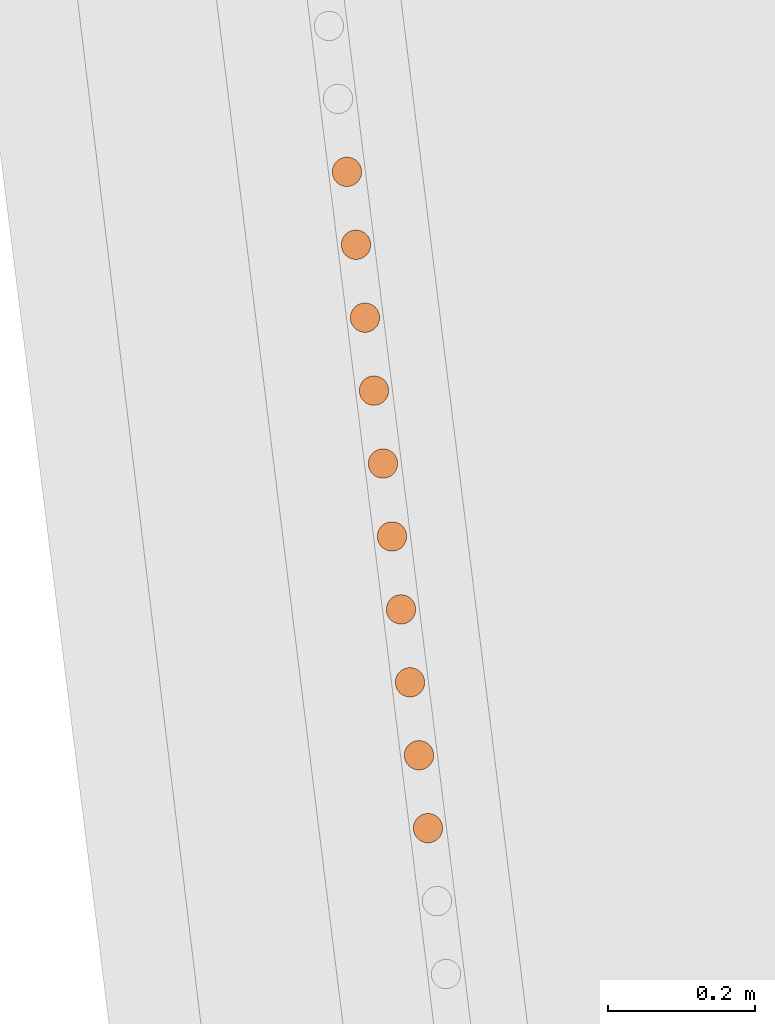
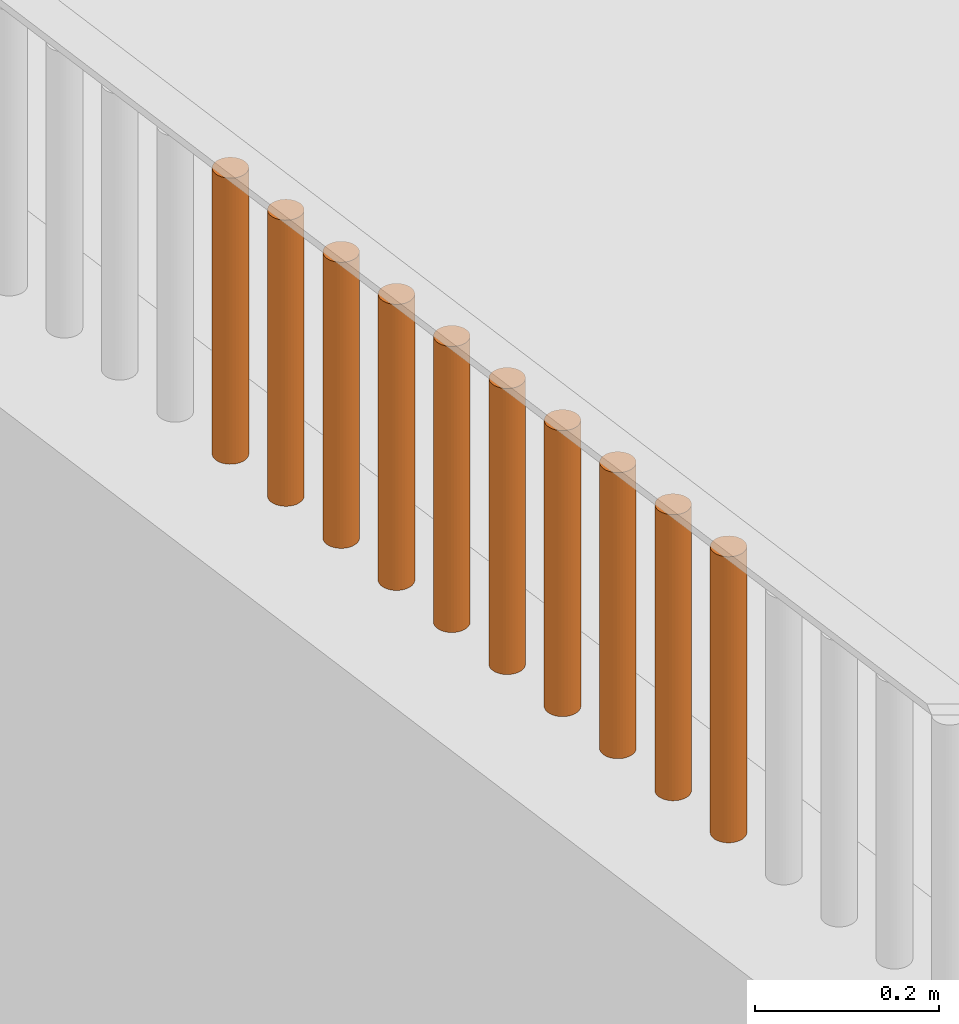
# One storey, part 125 of 1809: 10 proxies, 1 element without a shape of its own.
"""IFC2X3 building model written with IfcOpenShell, lengths in millimetres."""

from ifc_helpers import new_model, entity, si_unit, converted_unit, derived_unit, money_unit, direction, frame, origin_with_axes, place, context, subcontext, project, spatial, faceted_brep, source, transform, mapped, material, type_object, element, aggregate, save


model = new_model("IFC2X3")

# Units and contexts
model_context = context("Model", 3, precision=0.01, world=origin_with_axes(), true_north=direction((0.0, 1.0)))
body_context = subcontext(model_context, "Body", "Model", "MODEL_VIEW")
ifc_project = project(units=[si_unit("LENGTHUNIT", "METRE", prefix="MILLI"), si_unit("AREAUNIT", "SQUARE_METRE"), si_unit("VOLUMEUNIT", "CUBIC_METRE"), converted_unit("PLANEANGLEUNIT", "DEGREE", entity("IfcPlaneAngleMeasure", 0.0174532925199), si_unit("PLANEANGLEUNIT", "RADIAN"), dimensions=[0, 0, 0, 0, 0, 0, 0]), si_unit("SOLIDANGLEUNIT", "STERADIAN"), money_unit("EUR"), converted_unit("TIMEUNIT", "Year", entity("IfcTimeMeasure", 31556926.0), si_unit("TIMEUNIT", "SECOND"), dimensions=[0, 0, 1, 0, 0, 0, 0]), si_unit("MASSUNIT", "GRAM", prefix="KILO"), si_unit("THERMODYNAMICTEMPERATUREUNIT", "DEGREE_CELSIUS"), si_unit("LUMINOUSINTENSITYUNIT", "LUMEN"), si_unit("ENERGYUNIT", "JOULE", prefix="MEGA"), derived_unit("THERMALCONDUCTANCEUNIT", [(si_unit("POWERUNIT", "WATT"), 1), (si_unit("LENGTHUNIT", "METRE"), -1), (si_unit("THERMODYNAMICTEMPERATUREUNIT", "KELVIN"), -1)]), derived_unit("SPECIFICHEATCAPACITYUNIT", [(si_unit("ENERGYUNIT", "JOULE"), 1), (si_unit("MASSUNIT", "GRAM", prefix="KILO"), -1), (si_unit("THERMODYNAMICTEMPERATUREUNIT", "KELVIN"), -1)]), derived_unit("MASSDENSITYUNIT", [(si_unit("MASSUNIT", "GRAM", prefix="KILO"), 1), (si_unit("VOLUMEUNIT", "CUBIC_METRE"), -1)])], contexts=[model_context])

# Site, building, storey
site_placement = place(None, origin_with_axes())
site = spatial("IfcSite", under=ifc_project, at=site_placement, Name="Politse- ja Piirivalveameti ning Päästeameti ühishoone", CompositionType="ELEMENT")
building_placement = place(site_placement, origin_with_axes())
building = spatial("IfcBuilding", under=site, at=building_placement, Name="Politse- ja Piirivalveameti ning Päästeameti ühishoone", CompositionType="ELEMENT")
storey_placement = place(building_placement, origin_with_axes())
storey = spatial("IfcBuildingStorey", under=building, at=storey_placement, Name="Esimene korrus", CompositionType="ELEMENT", Elevation=0.0)

# Proxies
building_element_proxy_type_1 = type_object("IfcBuildingElementProxyType", Name="Railing Type", PredefinedType="NOTDEFINED")
proxy_1_placement = place(storey_placement, frame((-18956.5522504, -53688.4757966, 2100.0), z_axis=(0.0, 0.0, 1.0), x_axis=(1.0, 0.0, 0.0)))
proxy_1 = element("IfcBuildingElementProxy", 1, at=proxy_1_placement, inside=storey, type_object=building_element_proxy_type_1, Name="PIIRDEAED")
ifc_material = material(Name="ET-06_Teras - Konstruktsioon")
building_element_proxy_type_2 = type_object("IfcBuildingElementProxyType", Name="IfcBuildingElementProxy", PredefinedType="NOTDEFINED")
shared_shape_1 = source(origin_with_axes(), body_context, "Body", "Brep", [
    faceted_brep([(0.0, -20.0, 0.0), (3.47296355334, -19.6961550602, 0.0), (3.47296355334, -19.6961550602, 380.000012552), (0.0, -20.0, 380.000012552), (-3.47296355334, -19.6961550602, 0.0), (-6.84040286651, -18.7938524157, 0.0), (-10.0, -17.3205080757, 0.0), (-12.8557521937, -15.3208888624, 0.0), (-15.3208888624, -12.8557521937, 0.0), (-17.3205080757, -10.0, 0.0), (-18.7938524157, -6.84040286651, 0.0), (-19.6961550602, -3.47296355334, 0.0), (-20.0, 0.0, 0.0), (-19.6961550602, 3.47296355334, 0.0), (-18.7938524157, 6.84040286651, 0.0), (-17.3205080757, 10.0, 0.0), (-15.3208888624, 12.8557521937, 0.0), (-12.8557521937, 15.3208888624, 0.0), (-10.0, 17.3205080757, 0.0), (-6.84040286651, 18.7938524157, 0.0), (-3.47296355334, 19.6961550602, 0.0), (0.0, 20.0, 0.0), (3.47296355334, 19.6961550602, 0.0), (6.84040286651, 18.7938524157, 0.0), (10.0, 17.3205080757, 0.0), (12.8557521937, 15.3208888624, 0.0), (15.3208888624, 12.8557521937, 0.0), (17.3205080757, 10.0, 0.0), (18.7938524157, 6.84040286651, 0.0), (19.6961550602, 3.47296355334, 0.0), (20.0, 0.0, 0.0), (19.6961550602, -3.47296355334, 0.0), (18.7938524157, -6.84040286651, 0.0), (17.3205080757, -10.0, 0.0), (15.3208888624, -12.8557521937, 0.0), (12.8557521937, -15.3208888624, 0.0), (10.0, -17.3205080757, 0.0), (6.84040286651, -18.7938524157, 0.0), (6.84040286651, -18.7938524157, 380.000012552), (10.0, -17.3205080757, 380.000012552), (12.8557521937, -15.3208888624, 380.000012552), (15.3208888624, -12.8557521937, 380.000012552), (17.3205080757, -10.0, 380.000012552), (18.7938524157, -6.84040286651, 380.000012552), (19.6961550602, -3.47296355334, 380.000012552), (20.0, 0.0, 380.000012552), (19.6961550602, 3.47296355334, 380.000012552), (18.7938524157, 6.84040286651, 380.000012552), (17.3205080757, 10.0, 380.000012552), (15.3208888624, 12.8557521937, 380.000012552), (12.8557521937, 15.3208888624, 380.000012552), (10.0, 17.3205080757, 380.000012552), (6.84040286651, 18.7938524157, 380.000012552), (3.47296355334, 19.6961550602, 380.000012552), (0.0, 20.0, 380.000012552), (-3.47296355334, 19.6961550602, 380.000012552), (-6.84040286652, 18.7938524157, 380.000012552), (-10.0, 17.3205080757, 380.000012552), (-12.8557521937, 15.3208888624, 380.000012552), (-15.3208888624, 12.8557521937, 380.000012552), (-17.3205080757, 10.0, 380.000012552), (-18.7938524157, 6.84040286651, 380.000012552), (-19.6961550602, 3.47296355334, 380.000012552), (-20.0, 0.0, 380.000012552), (-19.6961550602, -3.47296355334, 380.000012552), (-18.7938524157, -6.84040286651, 380.000012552), (-17.3205080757, -10.0, 380.000012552), (-15.3208888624, -12.8557521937, 380.000012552), (-12.8557521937, -15.3208888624, 380.000012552), (-10.0, -17.3205080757, 380.000012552), (-6.84040286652, -18.7938524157, 380.000012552), (-3.47296355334, -19.6961550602, 380.000012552)], [[[0, 1, 2, 3]], [[0, 4, 5, 6, 7, 8, 9, 10, 11, 12, 13, 14, 15, 16, 17, 18, 19, 20, 21, 22, 23, 24, 25, 26, 27, 28, 29, 30, 31, 32, 33, 34, 35, 36, 37, 1]], [[1, 37, 38, 2]], [[3, 2, 38, 39, 40, 41, 42, 43, 44, 45, 46, 47, 48, 49, 50, 51, 52, 53, 54, 55, 56, 57, 58, 59, 60, 61, 62, 63, 64, 65, 66, 67, 68, 69, 70, 71]], [[4, 0, 3, 71]], [[5, 4, 71, 70]], [[6, 5, 70, 69]], [[7, 6, 69, 68]], [[8, 7, 68, 67]], [[9, 8, 67, 66]], [[10, 9, 66, 65]], [[11, 10, 65, 64]], [[12, 11, 64, 63]], [[13, 12, 63, 62]], [[14, 13, 62, 61]], [[15, 14, 61, 60]], [[16, 15, 60, 59]], [[17, 16, 59, 58]], [[18, 17, 58, 57]], [[19, 18, 57, 56]], [[20, 19, 56, 55]], [[21, 20, 55, 54]], [[22, 21, 54, 53]], [[23, 22, 53, 52]], [[24, 23, 52, 51]], [[25, 24, 51, 50]], [[26, 25, 50, 49]], [[27, 26, 49, 48]], [[28, 27, 48, 47]], [[29, 28, 47, 46]], [[30, 29, 46, 45]], [[31, 30, 45, 44]], [[32, 31, 44, 43]], [[33, 32, 43, 42]], [[34, 33, 42, 41]], [[35, 34, 41, 40]], [[36, 35, 40, 39]], [[37, 36, 39, 38]]]),
])
proxy_2_placement = place(proxy_1_placement, frame((-3657.10497244, 28794.1038899, -1.25517001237e-05), z_axis=(0.0, 0.0, 1.0), x_axis=(1.0, 0.0, 0.0)))
proxy_2 = element("IfcBuildingElementProxy", 2, at=proxy_2_placement, type_object=building_element_proxy_type_2, material=ifc_material, Name="BALUSTER - 001", context=body_context, shape_type="MappedRepresentation", body=[
    mapped(shared_shape_1, transform((0.0, 0.0, 0.0), x_axis=(0.992468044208, 0.122503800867, 0.0), y_axis=(-0.122503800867, 0.992468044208, 0.0), z_axis=(0.0, 0.0, 1.0))),
])
proxy_3_placement = place(proxy_1_placement, frame((-3681.60038227, 28992.5541528, -1.25517001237e-05), z_axis=(0.0, 0.0, 1.0), x_axis=(1.0, 0.0, 0.0)))
proxy_3 = element("IfcBuildingElementProxy", 3, at=proxy_3_placement, type_object=building_element_proxy_type_2, material=ifc_material, Name="BALUSTER - 001", context=body_context, shape_type="MappedRepresentation", body=[
    mapped(shared_shape_1, transform((0.0, 0.0, 0.0), x_axis=(0.992468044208, 0.122503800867, 0.0), y_axis=(-0.122503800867, 0.992468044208, 0.0), z_axis=(0.0, 0.0, 1.0))),
])
proxy_4_placement = place(proxy_1_placement, frame((-3742.83890684, 29488.6798099, -1.25517001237e-05), z_axis=(0.0, 0.0, 1.0), x_axis=(1.0, 0.0, 0.0)))
proxy_4 = element("IfcBuildingElementProxy", 4, at=proxy_4_placement, type_object=building_element_proxy_type_2, material=ifc_material, Name="BALUSTER - 001", context=body_context, shape_type="MappedRepresentation", body=[
    mapped(shared_shape_1, transform((0.0, 0.0, 0.0), x_axis=(0.992468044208, 0.122503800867, 0.0), y_axis=(-0.122503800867, 0.992468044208, 0.0), z_axis=(0.0, 0.0, 1.0))),
])
shared_shape_2 = source(origin_with_axes(), body_context, "Body", "Brep", [
    faceted_brep([(0.0, -20.0, 0.0), (3.47296355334, -19.6961550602, 0.0), (3.47296355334, -19.6961550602, 380.000012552), (0.0, -20.0, 380.000012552), (-3.47296355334, -19.6961550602, 0.0), (-6.84040286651, -18.7938524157, 0.0), (-10.0, -17.3205080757, 0.0), (-12.8557521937, -15.3208888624, 0.0), (-15.3208888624, -12.8557521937, 0.0), (-17.3205080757, -10.0, 0.0), (-18.7938524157, -6.84040286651, 0.0), (-19.6961550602, -3.47296355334, 0.0), (-20.0, 0.0, 0.0), (-19.6961550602, 3.47296355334, 0.0), (-18.7938524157, 6.84040286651, 0.0), (-17.3205080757, 10.0, 0.0), (-15.3208888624, 12.8557521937, 0.0), (-12.8557521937, 15.3208888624, 0.0), (-10.0, 17.3205080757, 0.0), (-6.84040286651, 18.7938524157, 0.0), (-3.47296355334, 19.6961550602, 0.0), (0.0, 20.0, 0.0), (3.47296355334, 19.6961550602, 0.0), (6.84040286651, 18.7938524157, 0.0), (10.0, 17.3205080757, 0.0), (12.8557521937, 15.3208888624, 0.0), (15.3208888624, 12.8557521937, 0.0), (17.3205080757, 10.0, 0.0), (18.7938524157, 6.84040286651, 0.0), (19.6961550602, 3.47296355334, 0.0), (20.0, 0.0, 0.0), (19.6961550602, -3.47296355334, 0.0), (18.7938524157, -6.84040286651, 0.0), (17.3205080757, -10.0, 0.0), (15.3208888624, -12.8557521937, 0.0), (12.8557521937, -15.3208888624, 0.0), (10.0, -17.3205080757, 0.0), (6.84040286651, -18.7938524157, 0.0), (6.84040286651, -18.7938524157, 380.000012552), (10.0, -17.3205080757, 380.000012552), (12.8557521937, -15.3208888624, 380.000012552), (15.3208888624, -12.8557521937, 380.000012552), (17.3205080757, -10.0, 380.000012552), (18.7938524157, -6.84040286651, 380.000012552), (19.6961550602, -3.47296355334, 380.000012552), (20.0, 0.0, 380.000012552), (19.6961550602, 3.47296355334, 380.000012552), (18.7938524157, 6.84040286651, 380.000012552), (17.3205080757, 10.0, 380.000012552), (15.3208888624, 12.8557521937, 380.000012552), (12.8557521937, 15.3208888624, 380.000012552), (10.0, 17.3205080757, 380.000012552), (6.84040286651, 18.7938524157, 380.000012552), (3.47296355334, 19.6961550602, 380.000012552), (0.0, 20.0, 380.000012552), (-3.47296355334, 19.6961550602, 380.000012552), (-6.84040286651, 18.7938524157, 380.000012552), (-10.0, 17.3205080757, 380.000012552), (-12.8557521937, 15.3208888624, 380.000012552), (-15.3208888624, 12.8557521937, 380.000012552), (-17.3205080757, 10.0, 380.000012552), (-18.7938524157, 6.84040286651, 380.000012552), (-19.6961550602, 3.47296355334, 380.000012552), (-20.0, 0.0, 380.000012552), (-19.6961550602, -3.47296355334, 380.000012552), (-18.7938524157, -6.84040286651, 380.000012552), (-17.3205080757, -10.0, 380.000012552), (-15.3208888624, -12.8557521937, 380.000012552), (-12.8557521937, -15.3208888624, 380.000012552), (-10.0, -17.3205080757, 380.000012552), (-6.84040286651, -18.7938524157, 380.000012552), (-3.47296355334, -19.6961550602, 380.000012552)], [[[0, 1, 2, 3]], [[0, 4, 5, 6, 7, 8, 9, 10, 11, 12, 13, 14, 15, 16, 17, 18, 19, 20, 21, 22, 23, 24, 25, 26, 27, 28, 29, 30, 31, 32, 33, 34, 35, 36, 37, 1]], [[1, 37, 38, 2]], [[3, 2, 38, 39, 40, 41, 42, 43, 44, 45, 46, 47, 48, 49, 50, 51, 52, 53, 54, 55, 56, 57, 58, 59, 60, 61, 62, 63, 64, 65, 66, 67, 68, 69, 70, 71]], [[4, 0, 3, 71]], [[5, 4, 71, 70]], [[6, 5, 70, 69]], [[7, 6, 69, 68]], [[8, 7, 68, 67]], [[9, 8, 67, 66]], [[10, 9, 66, 65]], [[11, 10, 65, 64]], [[12, 11, 64, 63]], [[13, 12, 63, 62]], [[14, 13, 62, 61]], [[15, 14, 61, 60]], [[16, 15, 60, 59]], [[17, 16, 59, 58]], [[18, 17, 58, 57]], [[19, 18, 57, 56]], [[20, 19, 56, 55]], [[21, 20, 55, 54]], [[22, 21, 54, 53]], [[23, 22, 53, 52]], [[24, 23, 52, 51]], [[25, 24, 51, 50]], [[26, 25, 50, 49]], [[27, 26, 49, 48]], [[28, 27, 48, 47]], [[29, 28, 47, 46]], [[30, 29, 46, 45]], [[31, 30, 45, 44]], [[32, 31, 44, 43]], [[33, 32, 43, 42]], [[34, 33, 42, 41]], [[35, 34, 41, 40]], [[36, 35, 40, 39]], [[37, 36, 39, 38]]]),
])
proxy_5_placement = place(proxy_1_placement, frame((-3706.0957921, 29191.0044156, -1.25517001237e-05), z_axis=(0.0, 0.0, 1.0), x_axis=(1.0, 0.0, 0.0)))
proxy_5 = element("IfcBuildingElementProxy", 5, at=proxy_5_placement, type_object=building_element_proxy_type_2, material=ifc_material, Name="BALUSTER - 001", context=body_context, shape_type="MappedRepresentation", body=[
    mapped(shared_shape_2, transform((0.0, 0.0, 0.0), x_axis=(0.992468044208, 0.122503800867, 0.0), y_axis=(-0.122503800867, 0.992468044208, 0.0), z_axis=(0.0, 0.0, 1.0))),
])
proxy_6_placement = place(proxy_1_placement, frame((-3718.34349701, 29290.229547, -1.25517001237e-05), z_axis=(0.0, 0.0, 1.0), x_axis=(1.0, 0.0, 0.0)))
proxy_6 = element("IfcBuildingElementProxy", 6, at=proxy_6_placement, type_object=building_element_proxy_type_2, material=ifc_material, Name="BALUSTER - 001", context=body_context, shape_type="MappedRepresentation", body=[
    mapped(shared_shape_2, transform((0.0, 0.0, 0.0), x_axis=(0.992468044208, 0.122503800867, 0.0), y_axis=(-0.122503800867, 0.992468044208, 0.0), z_axis=(0.0, 0.0, 1.0))),
])
proxy_7_placement = place(proxy_1_placement, frame((-3730.59120192, 29389.4546785, -1.25517001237e-05), z_axis=(0.0, 0.0, 1.0), x_axis=(1.0, 0.0, 0.0)))
proxy_7 = element("IfcBuildingElementProxy", 7, at=proxy_7_placement, type_object=building_element_proxy_type_2, material=ifc_material, Name="BALUSTER - 001", context=body_context, shape_type="MappedRepresentation", body=[
    mapped(shared_shape_2, transform((0.0, 0.0, 0.0), x_axis=(0.992468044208, 0.122503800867, 0.0), y_axis=(-0.122503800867, 0.992468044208, 0.0), z_axis=(0.0, 0.0, 1.0))),
])
proxy_8_placement = place(proxy_1_placement, frame((-3755.08661175, 29587.9049413, -1.25517001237e-05), z_axis=(0.0, 0.0, 1.0), x_axis=(1.0, 0.0, 0.0)))
proxy_8 = element("IfcBuildingElementProxy", 8, at=proxy_8_placement, type_object=building_element_proxy_type_2, material=ifc_material, Name="BALUSTER - 001", context=body_context, shape_type="MappedRepresentation", body=[
    mapped(shared_shape_2, transform((0.0, 0.0, 0.0), x_axis=(0.992468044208, 0.122503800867, 0.0), y_axis=(-0.122503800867, 0.992468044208, 0.0), z_axis=(0.0, 0.0, 1.0))),
])
shared_shape_3 = source(origin_with_axes(), body_context, "Body", "Brep", [
    faceted_brep([(0.0, -20.0, 0.0), (3.47296355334, -19.6961550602, 0.0), (3.47296355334, -19.6961550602, 380.000012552), (0.0, -20.0, 380.000012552), (-3.47296355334, -19.6961550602, 0.0), (-6.84040286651, -18.7938524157, 0.0), (-10.0, -17.3205080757, 0.0), (-12.8557521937, -15.3208888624, 0.0), (-15.3208888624, -12.8557521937, 0.0), (-17.3205080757, -10.0, 0.0), (-18.7938524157, -6.84040286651, 0.0), (-19.6961550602, -3.47296355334, 0.0), (-20.0, 0.0, 0.0), (-19.6961550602, 3.47296355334, 0.0), (-18.7938524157, 6.84040286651, 0.0), (-17.3205080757, 10.0, 0.0), (-15.3208888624, 12.8557521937, 0.0), (-12.8557521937, 15.3208888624, 0.0), (-10.0, 17.3205080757, 0.0), (-6.84040286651, 18.7938524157, 0.0), (-3.47296355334, 19.6961550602, 0.0), (0.0, 20.0, 0.0), (3.47296355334, 19.6961550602, 0.0), (6.84040286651, 18.7938524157, 0.0), (10.0, 17.3205080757, 0.0), (12.8557521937, 15.3208888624, 0.0), (15.3208888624, 12.8557521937, 0.0), (17.3205080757, 10.0, 0.0), (18.7938524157, 6.84040286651, 0.0), (19.6961550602, 3.47296355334, 0.0), (20.0, 0.0, 0.0), (19.6961550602, -3.47296355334, 0.0), (18.7938524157, -6.84040286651, 0.0), (17.3205080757, -10.0, 0.0), (15.3208888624, -12.8557521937, 0.0), (12.8557521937, -15.3208888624, 0.0), (10.0, -17.3205080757, 0.0), (6.84040286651, -18.7938524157, 0.0), (6.84040286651, -18.7938524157, 380.000012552), (10.0, -17.3205080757, 380.000012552), (12.8557521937, -15.3208888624, 380.000012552), (15.3208888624, -12.8557521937, 380.000012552), (17.3205080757, -10.0, 380.000012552), (18.7938524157, -6.84040286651, 380.000012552), (19.6961550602, -3.47296355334, 380.000012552), (20.0, 0.0, 380.000012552), (19.6961550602, 3.47296355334, 380.000012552), (18.7938524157, 6.84040286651, 380.000012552), (17.3205080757, 10.0, 380.000012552), (15.3208888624, 12.8557521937, 380.000012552), (12.8557521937, 15.3208888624, 380.000012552), (10.0, 17.3205080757, 380.000012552), (6.84040286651, 18.7938524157, 380.000012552), (3.47296355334, 19.6961550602, 380.000012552), (0.0, 20.0, 380.000012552), (-3.47296355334, 19.6961550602, 380.000012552), (-6.84040286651, 18.7938524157, 380.000012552), (-10.0, 17.3205080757, 380.000012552), (-12.8557521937, 15.3208888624, 380.000012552), (-15.3208888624, 12.8557521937, 380.000012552), (-17.3205080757, 10.0, 380.000012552), (-18.7938524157, 6.84040286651, 380.000012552), (-19.6961550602, 3.47296355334, 380.000012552), (-20.0, 0.0, 380.000012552), (-19.6961550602, -3.47296355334, 380.000012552), (-18.7938524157, -6.84040286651, 380.000012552), (-17.3205080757, -10.0, 380.000012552), (-15.3208888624, -12.8557521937, 380.000012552), (-12.8557521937, -15.3208888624, 380.000012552), (-10.0, -17.3205080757, 380.000012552), (-6.84040286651, -18.7938524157, 380.000012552), (-3.47296355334, -19.6961550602, 380.000012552)], [[[0, 1, 2, 3]], [[0, 4, 5, 6, 7, 8, 9, 10, 11, 12, 13, 14, 15, 16, 17, 18, 19, 20, 21, 22, 23, 24, 25, 26, 27, 28, 29, 30, 31, 32, 33, 34, 35, 36, 37, 1]], [[1, 37, 38, 2]], [[3, 2, 38, 39, 40, 41, 42, 43, 44, 45, 46, 47, 48, 49, 50, 51, 52, 53, 54, 55, 56, 57, 58, 59, 60, 61, 62, 63, 64, 65, 66, 67, 68, 69, 70, 71]], [[4, 0, 3, 71]], [[5, 4, 71, 70]], [[6, 5, 70, 69]], [[7, 6, 69, 68]], [[8, 7, 68, 67]], [[9, 8, 67, 66]], [[10, 9, 66, 65]], [[11, 10, 65, 64]], [[12, 11, 64, 63]], [[13, 12, 63, 62]], [[14, 13, 62, 61]], [[15, 14, 61, 60]], [[16, 15, 60, 59]], [[17, 16, 59, 58]], [[18, 17, 58, 57]], [[19, 18, 57, 56]], [[20, 19, 56, 55]], [[21, 20, 55, 54]], [[22, 21, 54, 53]], [[23, 22, 53, 52]], [[24, 23, 52, 51]], [[25, 24, 51, 50]], [[26, 25, 50, 49]], [[27, 26, 49, 48]], [[28, 27, 48, 47]], [[29, 28, 47, 46]], [[30, 29, 46, 45]], [[31, 30, 45, 44]], [[32, 31, 44, 43]], [[33, 32, 43, 42]], [[34, 33, 42, 41]], [[35, 34, 41, 40]], [[36, 35, 40, 39]], [[37, 36, 39, 38]]]),
])
proxy_9_placement = place(proxy_1_placement, frame((-3693.84808718, 29091.7792842, -1.25517001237e-05), z_axis=(0.0, 0.0, 1.0), x_axis=(1.0, 0.0, 0.0)))
proxy_9 = element("IfcBuildingElementProxy", 9, at=proxy_9_placement, type_object=building_element_proxy_type_2, material=ifc_material, Name="BALUSTER - 001", context=body_context, shape_type="MappedRepresentation", body=[
    mapped(shared_shape_3, transform((0.0, 0.0, 0.0), x_axis=(0.992468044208, 0.122503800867, 0.0), y_axis=(-0.122503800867, 0.992468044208, 0.0), z_axis=(0.0, 0.0, 1.0))),
])
shared_shape_4 = source(origin_with_axes(), body_context, "Body", "Brep", [
    faceted_brep([(0.0, -20.0, 0.0), (3.47296355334, -19.6961550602, 0.0), (3.47296355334, -19.6961550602, 380.000012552), (0.0, -20.0, 380.000012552), (-3.47296355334, -19.6961550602, 0.0), (-6.84040286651, -18.7938524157, 0.0), (-10.0, -17.3205080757, 0.0), (-12.8557521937, -15.3208888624, 0.0), (-15.3208888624, -12.8557521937, 0.0), (-17.3205080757, -10.0, 0.0), (-18.7938524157, -6.84040286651, 0.0), (-19.6961550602, -3.47296355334, 0.0), (-20.0, 0.0, 0.0), (-19.6961550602, 3.47296355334, 0.0), (-18.7938524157, 6.84040286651, 0.0), (-17.3205080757, 10.0, 0.0), (-15.3208888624, 12.8557521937, 0.0), (-12.8557521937, 15.3208888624, 0.0), (-10.0, 17.3205080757, 0.0), (-6.84040286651, 18.7938524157, 0.0), (-3.47296355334, 19.6961550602, 0.0), (0.0, 20.0, 0.0), (3.47296355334, 19.6961550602, 0.0), (6.84040286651, 18.7938524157, 0.0), (10.0, 17.3205080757, 0.0), (12.8557521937, 15.3208888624, 0.0), (15.3208888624, 12.8557521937, 0.0), (17.3205080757, 10.0, 0.0), (18.7938524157, 6.84040286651, 0.0), (19.6961550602, 3.47296355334, 0.0), (20.0, 0.0, 0.0), (19.6961550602, -3.47296355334, 0.0), (18.7938524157, -6.84040286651, 0.0), (17.3205080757, -10.0, 0.0), (15.3208888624, -12.8557521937, 0.0), (12.8557521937, -15.3208888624, 0.0), (10.0, -17.3205080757, 0.0), (6.84040286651, -18.7938524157, 0.0), (6.84040286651, -18.7938524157, 380.000012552), (10.0, -17.3205080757, 380.000012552), (12.8557521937, -15.3208888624, 380.000012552), (15.3208888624, -12.8557521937, 380.000012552), (17.3205080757, -10.0, 380.000012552), (18.7938524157, -6.84040286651, 380.000012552), (19.6961550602, -3.47296355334, 380.000012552), (20.0, 0.0, 380.000012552), (19.6961550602, 3.47296355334, 380.000012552), (18.7938524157, 6.84040286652, 380.000012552), (17.3205080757, 10.0, 380.000012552), (15.3208888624, 12.8557521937, 380.000012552), (12.8557521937, 15.3208888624, 380.000012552), (10.0, 17.3205080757, 380.000012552), (6.84040286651, 18.7938524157, 380.000012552), (3.47296355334, 19.6961550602, 380.000012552), (0.0, 20.0, 380.000012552), (-3.47296355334, 19.6961550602, 380.000012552), (-6.84040286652, 18.7938524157, 380.000012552), (-10.0, 17.3205080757, 380.000012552), (-12.8557521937, 15.3208888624, 380.000012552), (-15.3208888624, 12.8557521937, 380.000012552), (-17.3205080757, 10.0, 380.000012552), (-18.7938524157, 6.84040286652, 380.000012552), (-19.6961550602, 3.47296355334, 380.000012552), (-20.0, 0.0, 380.000012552), (-19.6961550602, -3.47296355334, 380.000012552), (-18.7938524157, -6.84040286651, 380.000012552), (-17.3205080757, -10.0, 380.000012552), (-15.3208888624, -12.8557521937, 380.000012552), (-12.8557521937, -15.3208888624, 380.000012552), (-10.0, -17.3205080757, 380.000012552), (-6.84040286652, -18.7938524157, 380.000012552), (-3.47296355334, -19.6961550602, 380.000012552)], [[[0, 1, 2, 3]], [[0, 4, 5, 6, 7, 8, 9, 10, 11, 12, 13, 14, 15, 16, 17, 18, 19, 20, 21, 22, 23, 24, 25, 26, 27, 28, 29, 30, 31, 32, 33, 34, 35, 36, 37, 1]], [[1, 37, 38, 2]], [[3, 2, 38, 39, 40, 41, 42, 43, 44, 45, 46, 47, 48, 49, 50, 51, 52, 53, 54, 55, 56, 57, 58, 59, 60, 61, 62, 63, 64, 65, 66, 67, 68, 69, 70, 71]], [[4, 0, 3, 71]], [[5, 4, 71, 70]], [[6, 5, 70, 69]], [[7, 6, 69, 68]], [[8, 7, 68, 67]], [[9, 8, 67, 66]], [[10, 9, 66, 65]], [[11, 10, 65, 64]], [[12, 11, 64, 63]], [[13, 12, 63, 62]], [[14, 13, 62, 61]], [[15, 14, 61, 60]], [[16, 15, 60, 59]], [[17, 16, 59, 58]], [[18, 17, 58, 57]], [[19, 18, 57, 56]], [[20, 19, 56, 55]], [[21, 20, 55, 54]], [[22, 21, 54, 53]], [[23, 22, 53, 52]], [[24, 23, 52, 51]], [[25, 24, 51, 50]], [[26, 25, 50, 49]], [[27, 26, 49, 48]], [[28, 27, 48, 47]], [[29, 28, 47, 46]], [[30, 29, 46, 45]], [[31, 30, 45, 44]], [[32, 31, 44, 43]], [[33, 32, 43, 42]], [[34, 33, 42, 41]], [[35, 34, 41, 40]], [[36, 35, 40, 39]], [[37, 36, 39, 38]]]),
])
proxy_10_placement = place(proxy_1_placement, frame((-3644.85726753, 28694.8787585, -1.25517001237e-05), z_axis=(0.0, 0.0, 1.0), x_axis=(1.0, 0.0, 0.0)))
proxy_10 = element("IfcBuildingElementProxy", 10, at=proxy_10_placement, type_object=building_element_proxy_type_2, material=ifc_material, Name="BALUSTER - 001", context=body_context, shape_type="MappedRepresentation", body=[
    mapped(shared_shape_4, transform((0.0, 0.0, 0.0), x_axis=(0.992468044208, 0.122503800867, 0.0), y_axis=(-0.122503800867, 0.992468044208, 0.0), z_axis=(0.0, 0.0, 1.0))),
])
shared_shape_5 = source(origin_with_axes(), body_context, "Body", "Brep", [
    faceted_brep([(0.0, -20.0, 0.0), (3.47296355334, -19.6961550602, 0.0), (3.47296355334, -19.6961550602, 380.000012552), (0.0, -20.0, 380.000012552), (-3.47296355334, -19.6961550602, 0.0), (-6.84040286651, -18.7938524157, 0.0), (-10.0, -17.3205080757, 0.0), (-12.8557521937, -15.3208888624, 0.0), (-15.3208888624, -12.8557521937, 0.0), (-17.3205080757, -10.0, 0.0), (-18.7938524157, -6.84040286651, 0.0), (-19.6961550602, -3.47296355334, 0.0), (-20.0, 0.0, 0.0), (-19.6961550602, 3.47296355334, 0.0), (-18.7938524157, 6.84040286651, 0.0), (-17.3205080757, 10.0, 0.0), (-15.3208888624, 12.8557521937, 0.0), (-12.8557521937, 15.3208888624, 0.0), (-10.0, 17.3205080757, 0.0), (-6.84040286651, 18.7938524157, 0.0), (-3.47296355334, 19.6961550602, 0.0), (0.0, 20.0, 0.0), (3.47296355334, 19.6961550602, 0.0), (6.84040286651, 18.7938524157, 0.0), (10.0, 17.3205080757, 0.0), (12.8557521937, 15.3208888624, 0.0), (15.3208888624, 12.8557521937, 0.0), (17.3205080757, 10.0, 0.0), (18.7938524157, 6.84040286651, 0.0), (19.6961550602, 3.47296355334, 0.0), (20.0, 0.0, 0.0), (19.6961550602, -3.47296355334, 0.0), (18.7938524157, -6.84040286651, 0.0), (17.3205080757, -10.0, 0.0), (15.3208888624, -12.8557521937, 0.0), (12.8557521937, -15.3208888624, 0.0), (10.0, -17.3205080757, 0.0), (6.84040286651, -18.7938524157, 0.0), (6.84040286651, -18.7938524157, 380.000012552), (10.0, -17.3205080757, 380.000012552), (12.8557521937, -15.3208888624, 380.000012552), (15.3208888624, -12.8557521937, 380.000012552), (17.3205080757, -10.0, 380.000012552), (18.7938524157, -6.84040286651, 380.000012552), (19.6961550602, -3.47296355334, 380.000012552), (20.0, 0.0, 380.000012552), (19.6961550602, 3.47296355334, 380.000012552), (18.7938524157, 6.84040286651, 380.000012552), (17.3205080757, 10.0, 380.000012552), (15.3208888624, 12.8557521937, 380.000012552), (12.8557521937, 15.3208888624, 380.000012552), (10.0, 17.3205080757, 380.000012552), (6.84040286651, 18.7938524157, 380.000012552), (3.47296355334, 19.6961550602, 380.000012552), (0.0, 20.0, 380.000012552), (-3.47296355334, 19.6961550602, 380.000012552), (-6.84040286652, 18.7938524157, 380.000012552), (-10.0, 17.3205080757, 380.000012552), (-12.8557521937, 15.3208888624, 380.000012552), (-15.3208888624, 12.8557521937, 380.000012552), (-17.3205080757, 10.0, 380.000012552), (-18.7938524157, 6.84040286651, 380.000012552), (-19.6961550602, 3.47296355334, 380.000012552), (-20.0, 0.0, 380.000012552), (-19.6961550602, -3.47296355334, 380.000012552), (-18.7938524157, -6.84040286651, 380.000012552), (-17.3205080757, -10.0, 380.000012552), (-15.3208888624, -12.8557521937, 380.000012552), (-12.8557521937, -15.3208888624, 380.000012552), (-10.0, -17.3205080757, 380.000012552), (-6.84040286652, -18.7938524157, 380.000012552), (-3.47296355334, -19.6961550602, 380.000012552)], [[[0, 1, 2, 3]], [[0, 4, 5, 6, 7, 8, 9, 10, 11, 12, 13, 14, 15, 16, 17, 18, 19, 20, 21, 22, 23, 24, 25, 26, 27, 28, 29, 30, 31, 32, 33, 34, 35, 36, 37, 1]], [[1, 37, 38, 2]], [[3, 2, 38, 39, 40, 41, 42, 43, 44, 45, 46, 47, 48, 49, 50, 51, 52, 53, 54, 55, 56, 57, 58, 59, 60, 61, 62, 63, 64, 65, 66, 67, 68, 69, 70, 71]], [[4, 0, 3, 71]], [[5, 4, 71, 70]], [[6, 5, 70, 69]], [[7, 6, 69, 68]], [[8, 7, 68, 67]], [[9, 8, 67, 66]], [[10, 9, 66, 65]], [[11, 10, 65, 64]], [[12, 11, 64, 63]], [[13, 12, 63, 62]], [[14, 13, 62, 61]], [[15, 14, 61, 60]], [[16, 15, 60, 59]], [[17, 16, 59, 58]], [[18, 17, 58, 57]], [[19, 18, 57, 56]], [[20, 19, 56, 55]], [[21, 20, 55, 54]], [[22, 21, 54, 53]], [[23, 22, 53, 52]], [[24, 23, 52, 51]], [[25, 24, 51, 50]], [[26, 25, 50, 49]], [[27, 26, 49, 48]], [[28, 27, 48, 47]], [[29, 28, 47, 46]], [[30, 29, 46, 45]], [[31, 30, 45, 44]], [[32, 31, 44, 43]], [[33, 32, 43, 42]], [[34, 33, 42, 41]], [[35, 34, 41, 40]], [[36, 35, 40, 39]], [[37, 36, 39, 38]]]),
])
proxy_11_placement = place(proxy_1_placement, frame((-3669.35267736, 28893.3290213, -1.25517001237e-05), z_axis=(0.0, 0.0, 1.0), x_axis=(1.0, 0.0, 0.0)))
proxy_11 = element("IfcBuildingElementProxy", 11, at=proxy_11_placement, type_object=building_element_proxy_type_2, material=ifc_material, Name="BALUSTER - 001", context=body_context, shape_type="MappedRepresentation", body=[
    mapped(shared_shape_5, transform((0.0, 0.0, 0.0), x_axis=(0.992468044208, 0.122503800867, 0.0), y_axis=(-0.122503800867, 0.992468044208, 0.0), z_axis=(0.0, 0.0, 1.0))),
])
aggregate(proxy_1, [proxy_10, proxy_2, proxy_11, proxy_3, proxy_9, proxy_5, proxy_6, proxy_7, proxy_4, proxy_8])

save(model, "model.ifc")
